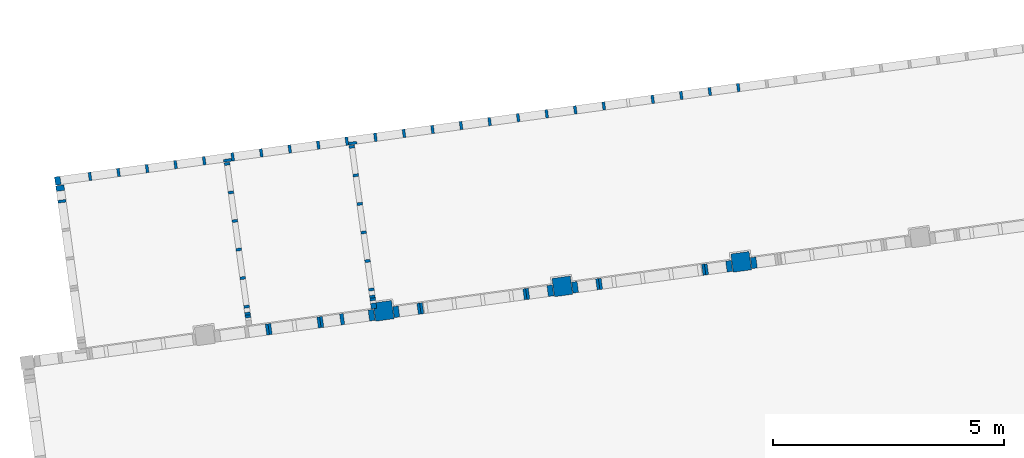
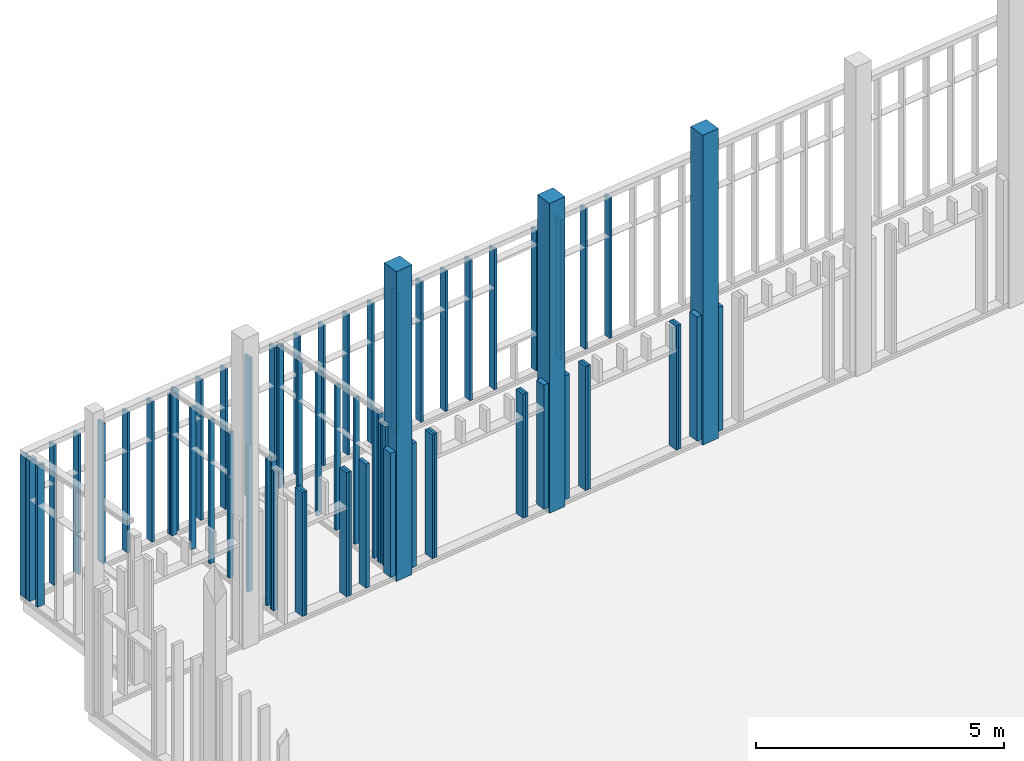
# One storey, part 6 of 24: 67 columns.
"""IFC2X3 building model written with IfcOpenShell, lengths in metres."""

from ifc_helpers import new_model, entity, si_unit, converted_unit, derived_unit, money_unit, direction, frame, origin_with_axes, origin_2d_with_axis, place, context, subcontext, project, spatial, rectangle, extrude, material, type_object, element, save


model = new_model("IFC2X3")

# Units and contexts
model_context = context("Model", 3, precision=1e-05, world=origin_with_axes(), true_north=direction((0.0, 1.0)))
body_context = subcontext(model_context, "Body", "Model", "MODEL_VIEW")
ifc_project = project(units=[si_unit("LENGTHUNIT", "METRE"), si_unit("AREAUNIT", "SQUARE_METRE"), si_unit("VOLUMEUNIT", "CUBIC_METRE"), converted_unit("PLANEANGLEUNIT", "DEGREE", entity("IfcPlaneAngleMeasure", 0.0174532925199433), si_unit("PLANEANGLEUNIT", "RADIAN"), dimensions=[0, 0, 0, 0, 0, 0, 0]), money_unit("EUR"), converted_unit("TIMEUNIT", "Year", entity("IfcTimeMeasure", 31557600.0), si_unit("TIMEUNIT", "SECOND"), dimensions=[0, 0, 1, 0, 0, 0, 0]), si_unit("MASSUNIT", "GRAM", prefix="KILO"), si_unit("THERMODYNAMICTEMPERATUREUNIT", "DEGREE_CELSIUS"), si_unit("LUMINOUSINTENSITYUNIT", "LUMEN"), si_unit("ENERGYUNIT", "JOULE", prefix="MEGA"), derived_unit("THERMALCONDUCTANCEUNIT", [(si_unit("POWERUNIT", "WATT"), 1), (si_unit("LENGTHUNIT", "METRE"), -1), (si_unit("THERMODYNAMICTEMPERATUREUNIT", "KELVIN"), -1)]), derived_unit("SPECIFICHEATCAPACITYUNIT", [(si_unit("ENERGYUNIT", "JOULE"), 1), (si_unit("MASSUNIT", "GRAM", prefix="KILO"), -1), (si_unit("THERMODYNAMICTEMPERATUREUNIT", "KELVIN"), -1)]), derived_unit("MASSDENSITYUNIT", [(si_unit("MASSUNIT", "GRAM", prefix="KILO"), 1), (si_unit("VOLUMEUNIT", "CUBIC_METRE"), -1)])], contexts=[model_context])

# Site, building, storey
site_placement = place(None, origin_with_axes())
site = spatial("IfcSite", under=ifc_project, at=site_placement, Name="Gelände", CompositionType="ELEMENT")
building_placement = place(site_placement, origin_with_axes())
building = spatial("IfcBuilding", under=site, at=building_placement, Name="Gebäude", CompositionType="ELEMENT")
storey_placement = place(building_placement, origin_with_axes())
storey = spatial("IfcBuildingStorey", under=building, at=storey_placement, Name="EG", CompositionType="ELEMENT", Elevation=0.0)

# Columns
ifc_material_1 = material(Name="Holz, Brettschichtholz")
column_type_1 = type_object("IfcColumnType", Name="Holz, Brettschichtholz 400 x 400", PredefinedType="NOTDEFINED")
column_1_placement = place(storey_placement, frame((96.11432433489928, -134.1426874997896, -0.168000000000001), z_axis=(0.0, 0.0, 1.0), x_axis=(-0.9907484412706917, -0.1357111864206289, 0.0)))
element("IfcColumn", 1, at=column_1_placement, inside=storey, type_object=column_type_1, material=ifc_material_1, Name="Stütze-011", context=body_context, shape_type="SweptSolid", body=[
    extrude(rectangle(XDim=0.4, YDim=0.4, at=origin_2d_with_axis()), frame((0.0, 0.0, 0.0), z_axis=(0.0, 0.0, -1.0), x_axis=(-1.0, 0.0, 0.0)), (0.0, 0.0, -1.0), 7.634011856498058),
])
column_2_placement = place(storey_placement, frame((99.99239681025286, -133.6114751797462, -0.168000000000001), z_axis=(0.0, 0.0, 1.0), x_axis=(-0.9907484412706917, -0.1357111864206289, 0.0)))
element("IfcColumn", 2, at=column_2_placement, inside=storey, type_object=column_type_1, material=ifc_material_1, Name="Stütze-011", context=body_context, shape_type="SweptSolid", body=[
    extrude(rectangle(XDim=0.4, YDim=0.4, at=origin_2d_with_axis()), frame((0.0, 0.0, 0.0), z_axis=(0.0, 0.0, -1.0), x_axis=(-1.0, 0.0, 0.0)), (0.0, 0.0, -1.0), 7.634011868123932),
])
column_3_placement = place(storey_placement, frame((92.23625185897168, -134.6738998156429, -0.168000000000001), z_axis=(0.0, 0.0, 1.0), x_axis=(-0.9907484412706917, -0.1357111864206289, 0.0)))
element("IfcColumn", 3, at=column_3_placement, inside=storey, type_object=column_type_1, material=ifc_material_1, Name="Stütze-011", context=body_context, shape_type="SweptSolid", body=[
    extrude(rectangle(XDim=0.4, YDim=0.4, at=origin_2d_with_axis()), frame((0.0, 0.0, 0.0), z_axis=(0.0, 0.0, -1.0), x_axis=(-1.0, 0.0, 0.0)), (0.0, 0.0, -1.0), 7.634011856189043),
])
ifc_material_2 = material(Name="Bauholz")
column_type_2 = type_object("IfcColumnType", Name="Bauholz 80 x 240", PredefinedType="NOTDEFINED")
column_4_placement = place(storey_placement, frame((91.3375872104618, -134.8555390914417, -0.0280000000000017), z_axis=(0.0, 0.0, 1.0), x_axis=(0.9907484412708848, 0.1357111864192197, 0.0)))
element("IfcColumn", 4, at=column_4_placement, inside=storey, type_object=column_type_2, material=ifc_material_2, Name="Stütze-018", context=body_context, shape_type="SweptSolid", body=[
    extrude(rectangle(XDim=0.08, YDim=0.24, at=origin_2d_with_axis()), origin_with_axes(), (0.0, 0.0, 1.0), 3.06),
])
column_type_3 = type_object("IfcColumnType", Name="Bauholz 60 x 120", PredefinedType="NOTDEFINED")
column_5_placement = place(storey_placement, frame((91.71856663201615, -132.3531852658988, 0.04999999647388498), z_axis=(0.0, 0.0, 1.0), x_axis=(-0.1357111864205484, 0.9907484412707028, 0.0)))
element("IfcColumn", 5, at=column_5_placement, inside=storey, type_object=column_type_3, material=ifc_material_2, Name="Stütze-018", context=body_context, shape_type="SweptSolid", body=[
    extrude(rectangle(XDim=0.06, YDim=0.12, at=origin_2d_with_axis()), frame((0.0, 0.0, 0.0), z_axis=(0.0, 0.0, -1.0), x_axis=(-1.0, 0.0, 0.0)), (0.0, 0.0, -1.0), 3.537531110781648),
])
column_6_placement = place(storey_placement, frame((91.97302510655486, -134.2108385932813, 0.04999999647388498), z_axis=(0.0, 0.0, 1.0), x_axis=(-0.1357111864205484, 0.9907484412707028, 0.0)))
element("IfcColumn", 6, at=column_6_placement, inside=storey, type_object=column_type_3, material=ifc_material_2, Name="Stütze-018", context=body_context, shape_type="SweptSolid", body=[
    extrude(rectangle(XDim=0.06, YDim=0.12, at=origin_2d_with_axis()), frame((0.0, 0.0, 0.0), z_axis=(0.0, 0.0, -1.0), x_axis=(-1.0, 0.0, 0.0)), (0.0, 0.0, -1.0), 3.635795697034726),
])
column_7_placement = place(storey_placement, frame((91.80338612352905, -132.972403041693, 0.04999999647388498), z_axis=(0.0, 0.0, 1.0), x_axis=(-0.1357111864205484, 0.9907484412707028, 0.0)))
element("IfcColumn", 7, at=column_7_placement, inside=storey, type_object=column_type_3, material=ifc_material_2, Name="Stütze-018", context=body_context, shape_type="SweptSolid", body=[
    extrude(rectangle(XDim=0.06, YDim=0.12, at=origin_2d_with_axis()), frame((0.0, 0.0, 0.0), z_axis=(0.0, 0.0, -1.0), x_axis=(-1.0, 0.0, 0.0)), (0.0, 0.0, -1.0), 3.570285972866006),
])
column_8_placement = place(storey_placement, frame((91.88820561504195, -133.5916208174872, 0.04999999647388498), z_axis=(0.0, 0.0, 1.0), x_axis=(-0.1357111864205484, 0.9907484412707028, 0.0)))
element("IfcColumn", 8, at=column_8_placement, inside=storey, type_object=column_type_3, material=ifc_material_2, Name="Stütze-018", context=body_context, shape_type="SweptSolid", body=[
    extrude(rectangle(XDim=0.06, YDim=0.12, at=origin_2d_with_axis()), frame((0.0, 0.0, 0.0), z_axis=(0.0, 0.0, -1.0), x_axis=(-1.0, 0.0, 0.0)), (0.0, 0.0, -1.0), 3.603040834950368),
])
column_9_placement = place(storey_placement, frame((89.2656121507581, -134.5816958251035, 0.04999999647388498), z_axis=(0.0, 0.0, 1.0), x_axis=(-0.1357111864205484, 0.9907484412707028, 0.0)))
element("IfcColumn", 9, at=column_9_placement, inside=storey, type_object=column_type_3, material=ifc_material_2, Name="Stütze-018", context=body_context, shape_type="SweptSolid", body=[
    extrude(rectangle(XDim=0.06, YDim=0.12, at=origin_2d_with_axis()), frame((0.0, 0.0, 0.0), z_axis=(0.0, 0.0, -1.0), x_axis=(-1.0, 0.0, 0.0)), (0.0, 0.0, -1.0), 3.635795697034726),
])
column_10_placement = place(storey_placement, frame((89.1807926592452, -133.9624780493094, 0.04999999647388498), z_axis=(0.0, 0.0, 1.0), x_axis=(-0.1357111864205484, 0.9907484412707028, 0.0)))
element("IfcColumn", 10, at=column_10_placement, inside=storey, type_object=column_type_3, material=ifc_material_2, Name="Stütze-018", context=body_context, shape_type="SweptSolid", body=[
    extrude(rectangle(XDim=0.06, YDim=0.12, at=origin_2d_with_axis()), frame((0.0, 0.0, 0.0), z_axis=(0.0, 0.0, -1.0), x_axis=(-1.0, 0.0, 0.0)), (0.0, 0.0, -1.0), 3.603040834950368),
])
column_11_placement = place(storey_placement, frame((89.0111536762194, -132.724042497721, 0.04999999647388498), z_axis=(0.0, 0.0, 1.0), x_axis=(-0.1357111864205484, 0.9907484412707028, 0.0)))
element("IfcColumn", 11, at=column_11_placement, inside=storey, type_object=column_type_3, material=ifc_material_2, Name="Stütze-018", context=body_context, shape_type="SweptSolid", body=[
    extrude(rectangle(XDim=0.06, YDim=0.12, at=origin_2d_with_axis()), frame((0.0, 0.0, 0.0), z_axis=(0.0, 0.0, -1.0), x_axis=(-1.0, 0.0, 0.0)), (0.0, 0.0, -1.0), 3.537531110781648),
])
column_12_placement = place(storey_placement, frame((89.0959731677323, -133.3432602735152, 0.04999999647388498), z_axis=(0.0, 0.0, 1.0), x_axis=(-0.1357111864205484, 0.9907484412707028, 0.0)))
element("IfcColumn", 12, at=column_12_placement, inside=storey, type_object=column_type_3, material=ifc_material_2, Name="Stütze-018", context=body_context, shape_type="SweptSolid", body=[
    extrude(rectangle(XDim=0.06, YDim=0.12, at=origin_2d_with_axis()), frame((0.0, 0.0, 0.0), z_axis=(0.0, 0.0, -1.0), x_axis=(-1.0, 0.0, 0.0)), (0.0, 0.0, -1.0), 3.570285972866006),
])
column_13_placement = place(storey_placement, frame((88.92633418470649, -132.1048247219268, 0.04999999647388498), z_axis=(0.0, 0.0, 1.0), x_axis=(-0.1357111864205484, 0.9907484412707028, 0.0)))
element("IfcColumn", 13, at=column_13_placement, inside=storey, type_object=column_type_3, material=ifc_material_2, Name="Stütze-018", context=body_context, shape_type="SweptSolid", body=[
    extrude(rectangle(XDim=0.06, YDim=0.12, at=origin_2d_with_axis()), frame((0.0, 0.0, 0.0), z_axis=(0.0, 0.0, -1.0), x_axis=(-1.0, 0.0, 0.0)), (0.0, 0.0, -1.0), 3.504776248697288),
])
column_14_placement = place(storey_placement, frame((88.84151469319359, -131.4856069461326, 0.04999999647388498), z_axis=(0.0, 0.0, 1.0), x_axis=(-0.1357111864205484, 0.9907484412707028, 0.0)))
element("IfcColumn", 14, at=column_14_placement, inside=storey, type_object=column_type_3, material=ifc_material_2, Name="Stütze-018", context=body_context, shape_type="SweptSolid", body=[
    extrude(rectangle(XDim=0.06, YDim=0.12, at=origin_2d_with_axis()), frame((0.0, 0.0, 0.0), z_axis=(0.0, 0.0, -1.0), x_axis=(-1.0, 0.0, 0.0)), (0.0, 0.0, -1.0), 3.472021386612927),
])
column_15_placement = place(storey_placement, frame((89.29472221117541, -134.7942114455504, 0.04999999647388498), z_axis=(0.0, 0.0, 1.0), x_axis=(-0.1357111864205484, 0.9907484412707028, 0.0)))
element("IfcColumn", 15, at=column_15_placement, inside=storey, type_object=column_type_3, material=ifc_material_2, Name="Stütze-018", context=body_context, shape_type="SweptSolid", body=[
    extrude(rectangle(XDim=0.06, YDim=0.12, at=origin_2d_with_axis()), frame((0.0, 0.0, 0.0), z_axis=(0.0, 0.0, -1.0), x_axis=(-1.0, 0.0, 0.0)), (0.0, 0.0, -1.0), 3.461949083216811),
])
column_16_placement = place(storey_placement, frame((89.28657953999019, -134.7347665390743, 0.04999999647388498), z_axis=(0.0, 0.0, 1.0), x_axis=(-0.1357111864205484, 0.9907484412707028, 0.0)))
element("IfcColumn", 16, at=column_16_placement, inside=storey, type_object=column_type_3, material=ifc_material_2, Name="Stütze-018", context=body_context, shape_type="SweptSolid", body=[
    extrude(rectangle(XDim=0.06, YDim=0.12, at=origin_2d_with_axis()), frame((0.0, 0.0, 0.0), z_axis=(0.0, 0.0, -1.0), x_axis=(-1.0, 0.0, 0.0)), (0.0, 0.0, -1.0), 3.64389270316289),
])
column_17_placement = place(storey_placement, frame((92.00213516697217, -134.4233542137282, 0.04999999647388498), z_axis=(0.0, 0.0, 1.0), x_axis=(-0.1357111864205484, 0.9907484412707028, 0.0)))
element("IfcColumn", 17, at=column_17_placement, inside=storey, type_object=column_type_3, material=ifc_material_2, Name="Stütze-018", context=body_context, shape_type="SweptSolid", body=[
    extrude(rectangle(XDim=0.06, YDim=0.12, at=origin_2d_with_axis()), frame((0.0, 0.0, 0.0), z_axis=(0.0, 0.0, -1.0), x_axis=(-1.0, 0.0, 0.0)), (0.0, 0.0, -1.0), 3.461949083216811),
])
column_18_placement = place(storey_placement, frame((91.63374714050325, -131.7339674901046, 0.04999999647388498), z_axis=(0.0, 0.0, 1.0), x_axis=(-0.1357111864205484, 0.9907484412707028, 0.0)))
element("IfcColumn", 18, at=column_18_placement, inside=storey, type_object=column_type_3, material=ifc_material_2, Name="Stütze-018", context=body_context, shape_type="SweptSolid", body=[
    extrude(rectangle(XDim=0.06, YDim=0.12, at=origin_2d_with_axis()), frame((0.0, 0.0, 0.0), z_axis=(0.0, 0.0, -1.0), x_axis=(-1.0, 0.0, 0.0)), (0.0, 0.0, -1.0), 3.504776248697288),
])
column_19_placement = place(storey_placement, frame((91.54892764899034, -131.1147497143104, 0.04999999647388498), z_axis=(0.0, 0.0, 1.0), x_axis=(-0.1357111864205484, 0.9907484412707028, 0.0)))
element("IfcColumn", 19, at=column_19_placement, inside=storey, type_object=column_type_3, material=ifc_material_2, Name="Stütze-018", context=body_context, shape_type="SweptSolid", body=[
    extrude(rectangle(XDim=0.06, YDim=0.12, at=origin_2d_with_axis()), frame((0.0, 0.0, 0.0), z_axis=(0.0, 0.0, -1.0), x_axis=(-1.0, 0.0, 0.0)), (0.0, 0.0, -1.0), 3.472021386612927),
])
column_20_placement = place(storey_placement, frame((91.99399249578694, -134.363909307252, 0.04999999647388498), z_axis=(0.0, 0.0, 1.0), x_axis=(-0.1357111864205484, 0.9907484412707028, 0.0)))
element("IfcColumn", 20, at=column_20_placement, inside=storey, type_object=column_type_3, material=ifc_material_2, Name="Stütze-018", context=body_context, shape_type="SweptSolid", body=[
    extrude(rectangle(XDim=0.06, YDim=0.12, at=origin_2d_with_axis()), frame((0.0, 0.0, 0.0), z_axis=(0.0, 0.0, -1.0), x_axis=(-1.0, 0.0, 0.0)), (0.0, 0.0, -1.0), 3.64389270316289),
])
column_type_4 = type_object("IfcColumnType", Name="Bauholz 60 x 180", PredefinedType="NOTDEFINED")
for number, where, z_axis, x_axis in (
    (21, (98.0738833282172, -130.0847107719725, 0.04999999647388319), (0.0, 0.0, 1.0), (0.9907484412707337, 0.1357111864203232, 0.0)),
    (22, (97.01378249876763, -130.2299217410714, 0.04999999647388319), (0.0, 0.0, 1.0), (0.9907484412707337, 0.1357111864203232, 0.0)),
):
    element("IfcColumn", number, at=place(storey_placement, frame(where, z_axis=z_axis, x_axis=x_axis)), inside=storey, type_object=column_type_4, material=ifc_material_2, Name="Stütze-018", context=body_context, shape_type="SweptSolid", body=[
        extrude(rectangle(XDim=0.06, YDim=0.18, at=origin_2d_with_axis()), origin_with_axes(), (0.0, 0.0, 1.0), 3.463538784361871),
    ])
column_21_placement = place(storey_placement, frame((85.26082756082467, -132.2965486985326, 0.04999997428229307), z_axis=(0.0, 0.0, 1.0), x_axis=(0.1357111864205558, -0.9907484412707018, 0.0)))
element("IfcColumn", 23, at=column_21_placement, inside=storey, type_object=column_type_4, material=ifc_material_2, Name="Stütze-018", context=body_context, shape_type="SweptSolid", body=[
    extrude(rectangle(XDim=0.06, YDim=0.18, at=origin_2d_with_axis()), origin_with_axes(), (0.0, 0.0, 1.0), 3.488660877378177),
])
for number, where, z_axis, x_axis in (
    (24, (88.85320425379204, -131.4083053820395, 0.04999999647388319), (0.0, 0.0, 1.0), (-0.1357111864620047, 0.9907484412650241, 0.0)),
    (25, (91.56785500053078, -131.0364567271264, 0.04999999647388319), (0.0, 0.0, 1.0), (0.1357111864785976, -0.9907484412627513, 0.0)),
    (26, (96.3945647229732, -130.3147412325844, 0.04999999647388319), (0.0, 0.0, 1.0), (0.9907484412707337, 0.1357111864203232, 0.0)),
    (27, (95.15612917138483, -130.4843802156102, 0.04999999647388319), (0.0, 0.0, 1.0), (0.9907484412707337, 0.1357111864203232, 0.0)),
    (28, (93.91769361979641, -130.6540191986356, 0.04999999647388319), (0.0, 0.0, 1.0), (0.9907484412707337, 0.1357111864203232, 0.0)),
    (29, (94.5369113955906, -130.5691997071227, 0.04999999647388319), (0.0, 0.0, 1.0), (0.9907484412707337, 0.1357111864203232, 0.0)),
    (30, (93.29847584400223, -130.7388386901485, 0.04999999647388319), (0.0, 0.0, 1.0), (0.9907484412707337, 0.1357111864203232, 0.0)),
    (31, (92.06004029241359, -130.9084776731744, 0.04999999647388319), (0.0, 0.0, 1.0), (0.9907484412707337, 0.1357111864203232, 0.0)),
    (32, (95.77534694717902, -130.3995607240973, 0.04999999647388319), (0.0, 0.0, 1.0), (0.9907484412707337, 0.1357111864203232, 0.0)),
    (33, (90.82160473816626, -131.0781166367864, 0.04999999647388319), (0.0, 0.0, 1.0), (0.9907484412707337, 0.1357111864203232, 0.0)),
    (34, (91.44082251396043, -130.9932971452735, 0.04999999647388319), (0.0, 0.0, 1.0), (0.9907484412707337, 0.1357111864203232, 0.0)),
    (35, (92.67925806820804, -130.8236581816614, 0.04999999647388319), (0.0, 0.0, 1.0), (0.9907484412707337, 0.1357111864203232, 0.0)),
    (36, (90.20238696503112, -131.1629361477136, 0.04999999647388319), (0.0, 0.0, 1.0), (0.9907484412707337, 0.1357111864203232, 0.0)),
    (37, (89.58316918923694, -131.2477556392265, 0.04999999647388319), (0.0, 0.0, 1.0), (0.9907484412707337, 0.1357111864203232, 0.0)),
    (38, (88.34473363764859, -131.4173946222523, 0.04999999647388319), (0.0, 0.0, 1.0), (0.9907484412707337, 0.1357111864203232, 0.0)),
    (39, (87.10629808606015, -131.5870336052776, 0.04999999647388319), (0.0, 0.0, 1.0), (0.9907484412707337, 0.1357111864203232, 0.0)),
    (40, (86.48708031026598, -131.6718530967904, 0.04999999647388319), (0.0, 0.0, 1.0), (0.9907484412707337, 0.1357111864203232, 0.0)),
    (41, (85.86786253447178, -131.7566725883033, 0.04999999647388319), (0.0, 0.0, 1.0), (0.9907484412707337, 0.1357111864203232, 0.0)),
    (42, (98.69310110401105, -129.9998912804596, 0.04999999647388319), (0.0, 0.0, 1.0), (0.9907484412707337, 0.1357111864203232, 0.0)),
    (43, (99.93153665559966, -129.8302522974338, 0.04999999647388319), (0.0, 0.0, 1.0), (0.9907484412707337, 0.1357111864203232, 0.0)),
    (44, (87.72551586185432, -131.5022141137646, 0.04999999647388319), (0.0, 0.0, 1.0), (0.9907484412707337, 0.1357111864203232, 0.0)),
    (45, (99.31231887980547, -129.9150717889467, 0.04999999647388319), (0.0, 0.0, 1.0), (0.9907484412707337, 0.1357111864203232, 0.0)),
    (46, (88.96395141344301, -131.3325751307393, 0.04999999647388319), (0.0, 0.0, 1.0), (0.9907484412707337, 0.1357111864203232, 0.0)),
):
    element("IfcColumn", number, at=place(storey_placement, frame(where, z_axis=z_axis, x_axis=x_axis)), inside=storey, type_object=column_type_4, material=ifc_material_2, Name="Stütze-018", context=body_context, shape_type="SweptSolid", body=[
        extrude(rectangle(XDim=0.06, YDim=0.18, at=origin_2d_with_axis()), origin_with_axes(), (0.0, 0.0, 1.0), 3.463538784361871),
    ])
column_type_5 = type_object("IfcColumnType", Name="Bauholz 120 x 240", PredefinedType="NOTDEFINED")
column_22_placement = place(storey_placement, frame((91.97662066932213, -134.7680052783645, -0.02800000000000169), z_axis=(0.0, 0.0, 1.0), x_axis=(0.9907484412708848, 0.1357111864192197, 0.0)))
element("IfcColumn", 47, at=column_22_placement, inside=storey, type_object=column_type_5, material=ifc_material_2, Name="Stütze-018", context=body_context, shape_type="SweptSolid", body=[
    extrude(rectangle(XDim=0.1200007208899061, YDim=0.24, at=origin_2d_with_axis()), origin_with_axes(), (0.0, 0.0, 1.0), 3.06),
])
for number, where, z_axis, x_axis in (
    (48, (92.51162554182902, -134.6947211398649, -0.02800000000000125), (0.0, 0.0, 1.0), (0.9907484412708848, 0.1357111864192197, 0.0)),
    (49, (95.8546931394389, -134.2367929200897, -0.02800000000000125), (0.0, 0.0, 1.0), (0.9907484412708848, 0.1357111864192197, 0.0)),
):
    element("IfcColumn", number, at=place(storey_placement, frame(where, z_axis=z_axis, x_axis=x_axis)), inside=storey, type_object=column_type_5, material=ifc_material_2, Name="Stütze-018", context=body_context, shape_type="SweptSolid", body=[
        extrude(rectangle(XDim=0.1200007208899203, YDim=0.24, at=origin_2d_with_axis()), origin_with_axes(), (0.0, 0.0, 1.0), 3.06),
    ])
column_23_placement = place(storey_placement, frame((96.3896980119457, -134.1635087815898, -0.02800000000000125), z_axis=(0.0, 0.0, 1.0), x_axis=(0.9907484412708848, 0.1357111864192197, 0.0)))
element("IfcColumn", 50, at=column_23_placement, inside=storey, type_object=column_type_5, material=ifc_material_2, Name="Stütze-018", context=body_context, shape_type="SweptSolid", body=[
    extrude(rectangle(XDim=0.1200007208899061, YDim=0.24, at=origin_2d_with_axis()), origin_with_axes(), (0.0, 0.0, 1.0), 3.06),
])
column_24_placement = place(storey_placement, frame((99.73276560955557, -133.7055805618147, -0.02800000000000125), z_axis=(0.0, 0.0, 1.0), x_axis=(0.9907484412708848, 0.1357111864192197, 0.0)))
element("IfcColumn", 51, at=column_24_placement, inside=storey, type_object=column_type_5, material=ifc_material_2, Name="Stütze-018", context=body_context, shape_type="SweptSolid", body=[
    extrude(rectangle(XDim=0.1200007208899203, YDim=0.24, at=origin_2d_with_axis()), origin_with_axes(), (0.0, 0.0, 1.0), 3.06),
])
column_25_placement = place(storey_placement, frame((100.2677704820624, -133.6322964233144, -0.02800000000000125), z_axis=(0.0, 0.0, 1.0), x_axis=(0.9907484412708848, 0.1357111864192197, 0.0)))
element("IfcColumn", 52, at=column_25_placement, inside=storey, type_object=column_type_5, material=ifc_material_2, Name="Stütze-018", context=body_context, shape_type="SweptSolid", body=[
    extrude(rectangle(XDim=0.1200007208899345, YDim=0.24, at=origin_2d_with_axis()), origin_with_axes(), (0.0, 0.0, 1.0), 3.06),
])
column_type_6 = type_object("IfcColumnType", Name="Bauholz 120 x 180", PredefinedType="NOTDEFINED")
column_26_placement = place(storey_placement, frame((85.2218105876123, -132.0117085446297, 0.04999999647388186), z_axis=(0.0, 0.0, 1.0), x_axis=(0.1357111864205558, -0.9907484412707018, 0.0)))
element("IfcColumn", 53, at=column_26_placement, inside=storey, type_object=column_type_6, material=ifc_material_2, Name="Stütze-018", context=body_context, shape_type="SweptSolid", body=[
    extrude(rectangle(XDim=0.12, YDim=0.18, at=origin_2d_with_axis()), origin_with_axes(), (0.0, 0.0, 1.0), 3.475165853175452),
])
column_27_placement = place(storey_placement, frame((85.16969577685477, -131.8523063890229, 0.04999999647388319), z_axis=(0.0, 0.0, 1.0), x_axis=(0.9907484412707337, 0.1357111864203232, 0.0)))
element("IfcColumn", 54, at=column_27_placement, inside=storey, type_object=column_type_6, material=ifc_material_2, Name="Stütze-018", context=body_context, shape_type="SweptSolid", body=[
    extrude(rectangle(XDim=0.12, YDim=0.18, at=origin_2d_with_axis()), origin_with_axes(), (0.0, 0.0, 1.0), 3.463538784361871),
])
column_type_7 = type_object("IfcColumnType", Name="Bauholz 120 x 120", PredefinedType="NOTDEFINED")
column_28_placement = place(storey_placement, frame((92.02154183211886, -134.565030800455, 0.04999999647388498), z_axis=(0.0, 0.0, 1.0), x_axis=(-0.1357111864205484, 0.9907484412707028, 0.0)))
element("IfcColumn", 55, at=column_28_placement, inside=storey, type_object=column_type_7, material=ifc_material_2, Name="Stütze-018", context=body_context, shape_type="SweptSolid", body=[
    extrude(rectangle(XDim=0.1200007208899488, YDim=0.12, at=origin_2d_with_axis()), frame((0.0, 0.0, 0.0), z_axis=(0.0, 0.0, -1.0), x_axis=(-1.0, 0.0, 0.0)), (0.0, 0.0, -1.0), 3.461949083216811),
])
column_type_8 = type_object("IfcColumnType", Name="Bauholz 60 x 240", PredefinedType="NOTDEFINED")
for number, where, z_axis, x_axis in (
    (56, (89.77503725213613, -135.0695747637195, -0.0280000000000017), (0.0, 0.0, 1.0), (0.9907484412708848, 0.1357111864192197, 0.0)),
    (57, (90.8351364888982, -134.9243640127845, -0.0280000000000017), (0.0, 0.0, 1.0), (0.9907484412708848, 0.1357111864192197, 0.0)),
    (58, (89.71559234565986, -135.0777174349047, -0.0280000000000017), (0.0, 0.0, 1.0), (0.9907484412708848, 0.1357111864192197, 0.0)),
    (59, (93.0041686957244, -134.6272533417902, -0.02800000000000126), (0.0, 0.0, 1.0), (0.9907484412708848, 0.1357111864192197, 0.0)),
    (60, (90.89458139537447, -134.9162213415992, -0.0280000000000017), (0.0, 0.0, 1.0), (0.9907484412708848, 0.1357111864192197, 0.0)),
    (61, (95.36214998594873, -134.3042607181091, -0.02800000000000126), (0.0, 0.0, 1.0), (0.9907484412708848, 0.1357111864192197, 0.0)),
    (62, (95.30270507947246, -134.3124033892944, -0.02800000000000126), (0.0, 0.0, 1.0), (0.9907484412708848, 0.1357111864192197, 0.0)),
    (63, (96.88224116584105, -134.0960409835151, -0.02800000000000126), (0.0, 0.0, 1.0), (0.9907484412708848, 0.1357111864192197, 0.0)),
    (64, (99.18077754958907, -133.7811910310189, -0.02800000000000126), (0.0, 0.0, 1.0), (0.9907484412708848, 0.1357111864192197, 0.0)),
    (65, (96.94168607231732, -134.0878983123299, -0.02800000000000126), (0.0, 0.0, 1.0), (0.9907484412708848, 0.1357111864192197, 0.0)),
    (66, (93.06361360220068, -134.6191106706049, -0.02800000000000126), (0.0, 0.0, 1.0), (0.9907484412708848, 0.1357111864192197, 0.0)),
    (67, (99.24022245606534, -133.7730483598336, -0.02800000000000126), (0.0, 0.0, 1.0), (0.9907484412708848, 0.1357111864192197, 0.0)),
):
    element("IfcColumn", number, at=place(storey_placement, frame(where, z_axis=z_axis, x_axis=x_axis)), inside=storey, type_object=column_type_8, material=ifc_material_2, Name="Stütze-018", context=body_context, shape_type="SweptSolid", body=[
        extrude(rectangle(XDim=0.06, YDim=0.24, at=origin_2d_with_axis()), origin_with_axes(), (0.0, 0.0, 1.0), 3.06),
    ])

save(model, "model.ifc")
